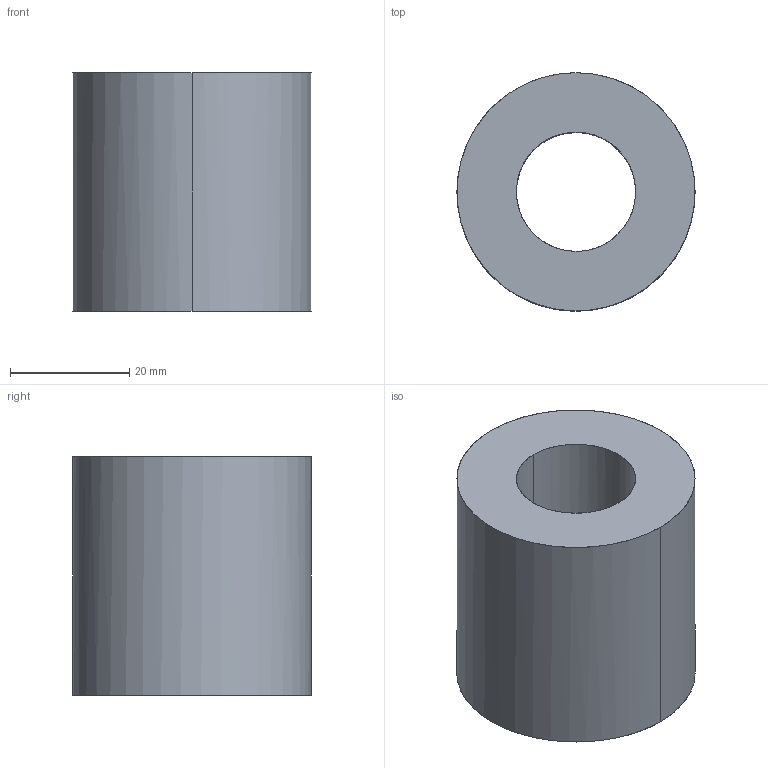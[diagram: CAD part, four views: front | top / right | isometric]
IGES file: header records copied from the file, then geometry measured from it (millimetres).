
Global section: file name: E:\UnigraphicsGraphicData\MISUMI_PRESS-PARTS\IGES\3d_swm40-40_00740_r00.igs; native system: NX V5.0; preprocessor: UGS NX IGES V5.0; author: MISUMI; date: 20110105.163259; units: millimetre
Bounding box: 40 x 40 x 40 mm (x, y, z)
Surface area: 9423.2 mm2 (no closed solid volume)
Topology: 0 solids, 0 shells, 6 faces, 64 edges, 64 vertices
Faces by surface type: bspline 6
